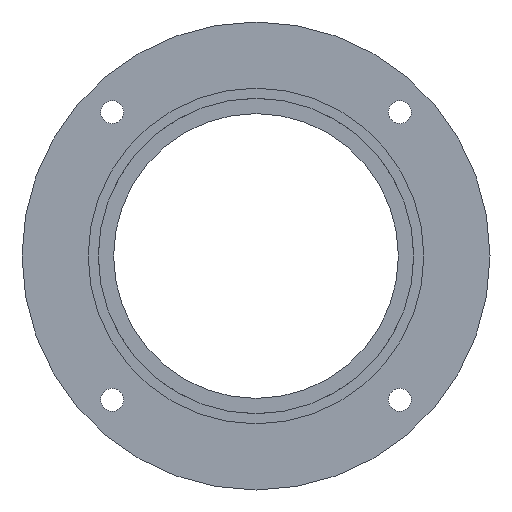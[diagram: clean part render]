
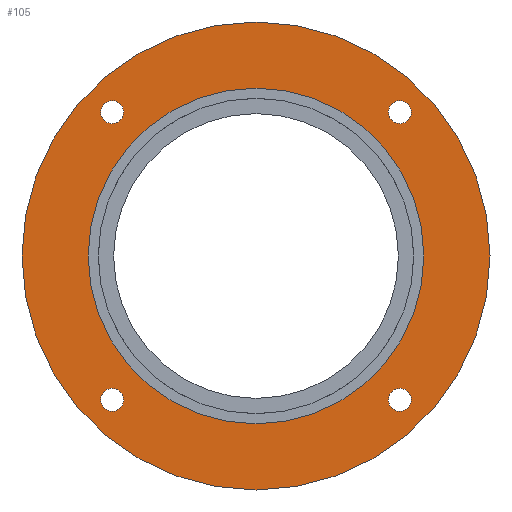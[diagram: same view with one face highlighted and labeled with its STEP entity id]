
A CAD part, front view. The second image highlights one B-rep face of the part: STEP entity #105.
In plain terms, the highlighted planar face has unit normal (0, -1, 0).
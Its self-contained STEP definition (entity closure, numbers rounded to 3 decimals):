
#21 = EDGE_CURVE('',#22,#22,#24,.T.);
#22 = VERTEX_POINT('',#23);
#23 = CARTESIAN_POINT('',(0.,35.,32.99));
#24 = SURFACE_CURVE('',#25,(#30,#42),.PCURVE_S1.);
#25 = CIRCLE('',#26,32.99);
#26 = AXIS2_PLACEMENT_3D('',#27,#28,#29);
#27 = CARTESIAN_POINT('',(0.,35.,0.));
#28 = DIRECTION('',(0.,1.,0.));
#29 = DIRECTION('',(0.,-0.,1.));
#30 = PCURVE('',#31,#36);
#31 = CYLINDRICAL_SURFACE('',#32,32.99);
#32 = AXIS2_PLACEMENT_3D('',#33,#34,#35);
#33 = CARTESIAN_POINT('',(0.,24.,0.));
#34 = DIRECTION('',(0.,1.,0.));
#35 = DIRECTION('',(0.,-0.,1.));
#36 = DEFINITIONAL_REPRESENTATION('',(#37),#41);
#37 = LINE('',#38,#39);
#38 = CARTESIAN_POINT('',(0.,11.));
#39 = VECTOR('',#40,1.);
#40 = DIRECTION('',(1.,0.));
#41 = ( GEOMETRIC_REPRESENTATION_CONTEXT(2) 
PARAMETRIC_REPRESENTATION_CONTEXT() REPRESENTATION_CONTEXT('2D SPACE',''
  ) );
#42 = PCURVE('',#43,#48);
#43 = PLANE('',#44);
#44 = AXIS2_PLACEMENT_3D('',#45,#46,#47);
#45 = CARTESIAN_POINT('',(0.,35.,0.));
#46 = DIRECTION('',(0.,1.,0.));
#47 = DIRECTION('',(0.,-0.,1.));
#48 = DEFINITIONAL_REPRESENTATION('',(#49),#53);
#49 = CIRCLE('',#50,32.99);
#50 = AXIS2_PLACEMENT_2D('',#51,#52);
#51 = CARTESIAN_POINT('',(0.,0.));
#52 = DIRECTION('',(1.,0.));
#53 = ( GEOMETRIC_REPRESENTATION_CONTEXT(2) 
PARAMETRIC_REPRESENTATION_CONTEXT() REPRESENTATION_CONTEXT('2D SPACE',''
  ) );
#105 = ADVANCED_FACE('',(#106,#137,#172,#207,#242,#245),#43,.F.);
#106 = FACE_BOUND('',#107,.F.);
#107 = EDGE_LOOP('',(#108));
#108 = ORIENTED_EDGE('',*,*,#109,.T.);
#109 = EDGE_CURVE('',#110,#110,#112,.T.);
#110 = VERTEX_POINT('',#111);
#111 = CARTESIAN_POINT('',(0.,35.,46.));
#112 = SURFACE_CURVE('',#113,(#118,#125),.PCURVE_S1.);
#113 = CIRCLE('',#114,46.);
#114 = AXIS2_PLACEMENT_3D('',#115,#116,#117);
#115 = CARTESIAN_POINT('',(0.,35.,0.));
#116 = DIRECTION('',(0.,1.,0.));
#117 = DIRECTION('',(0.,-0.,1.));
#118 = PCURVE('',#43,#119);
#119 = DEFINITIONAL_REPRESENTATION('',(#120),#124);
#120 = CIRCLE('',#121,46.);
#121 = AXIS2_PLACEMENT_2D('',#122,#123);
#122 = CARTESIAN_POINT('',(0.,0.));
#123 = DIRECTION('',(1.,0.));
#124 = ( GEOMETRIC_REPRESENTATION_CONTEXT(2) 
PARAMETRIC_REPRESENTATION_CONTEXT() REPRESENTATION_CONTEXT('2D SPACE',''
  ) );
#125 = PCURVE('',#126,#131);
#126 = CYLINDRICAL_SURFACE('',#127,46.);
#127 = AXIS2_PLACEMENT_3D('',#128,#129,#130);
#128 = CARTESIAN_POINT('',(0.,35.,0.));
#129 = DIRECTION('',(0.,1.,0.));
#130 = DIRECTION('',(0.,-0.,1.));
#131 = DEFINITIONAL_REPRESENTATION('',(#132),#136);
#132 = LINE('',#133,#134);
#133 = CARTESIAN_POINT('',(0.,0.));
#134 = VECTOR('',#135,1.);
#135 = DIRECTION('',(1.,0.));
#136 = ( GEOMETRIC_REPRESENTATION_CONTEXT(2) 
PARAMETRIC_REPRESENTATION_CONTEXT() REPRESENTATION_CONTEXT('2D SPACE',''
  ) );
#137 = FACE_BOUND('',#138,.F.);
#138 = EDGE_LOOP('',(#139));
#139 = ORIENTED_EDGE('',*,*,#140,.T.);
#140 = EDGE_CURVE('',#141,#141,#143,.T.);
#141 = VERTEX_POINT('',#142);
#142 = CARTESIAN_POINT('',(-28.284,35.,-30.534));
#143 = SURFACE_CURVE('',#144,(#149,#160),.PCURVE_S1.);
#144 = CIRCLE('',#145,2.25);
#145 = AXIS2_PLACEMENT_3D('',#146,#147,#148);
#146 = CARTESIAN_POINT('',(-28.284,35.,-28.284));
#147 = DIRECTION('',(0.,-1.,0.));
#148 = DIRECTION('',(0.,-0.,-1.));
#149 = PCURVE('',#43,#150);
#150 = DEFINITIONAL_REPRESENTATION('',(#151),#159);
#151 = ( BOUNDED_CURVE() B_SPLINE_CURVE(2,(#152,#153,#154,#155,#156,#157
,#158),.UNSPECIFIED.,.T.,.F.) B_SPLINE_CURVE_WITH_KNOTS((1,2,2,2,2,1),(
    -2.094,0.,2.094,4.189,6.283,
8.378),.UNSPECIFIED.) CURVE() GEOMETRIC_REPRESENTATION_ITEM() 
RATIONAL_B_SPLINE_CURVE((1.,0.5,1.,0.5,1.,0.5,1.)) REPRESENTATION_ITEM(
  '') );
#152 = CARTESIAN_POINT('',(-30.534,-28.284));
#153 = CARTESIAN_POINT('',(-30.534,-24.387));
#154 = CARTESIAN_POINT('',(-27.159,-26.336));
#155 = CARTESIAN_POINT('',(-23.784,-28.284));
#156 = CARTESIAN_POINT('',(-27.159,-30.233));
#157 = CARTESIAN_POINT('',(-30.534,-32.181));
#158 = CARTESIAN_POINT('',(-30.534,-28.284));
#159 = ( GEOMETRIC_REPRESENTATION_CONTEXT(2) 
PARAMETRIC_REPRESENTATION_CONTEXT() REPRESENTATION_CONTEXT('2D SPACE',''
  ) );
#160 = PCURVE('',#161,#166);
#161 = CYLINDRICAL_SURFACE('',#162,2.25);
#162 = AXIS2_PLACEMENT_3D('',#163,#164,#165);
#163 = CARTESIAN_POINT('',(-28.284,40.5,-28.284));
#164 = DIRECTION('',(0.,-1.,0.));
#165 = DIRECTION('',(0.,-0.,-1.));
#166 = DEFINITIONAL_REPRESENTATION('',(#167),#171);
#167 = LINE('',#168,#169);
#168 = CARTESIAN_POINT('',(0.,5.5));
#169 = VECTOR('',#170,1.);
#170 = DIRECTION('',(1.,0.));
#171 = ( GEOMETRIC_REPRESENTATION_CONTEXT(2) 
PARAMETRIC_REPRESENTATION_CONTEXT() REPRESENTATION_CONTEXT('2D SPACE',''
  ) );
#172 = FACE_BOUND('',#173,.F.);
#173 = EDGE_LOOP('',(#174));
#174 = ORIENTED_EDGE('',*,*,#175,.T.);
#175 = EDGE_CURVE('',#176,#176,#178,.T.);
#176 = VERTEX_POINT('',#177);
#177 = CARTESIAN_POINT('',(-28.284,35.,26.034));
#178 = SURFACE_CURVE('',#179,(#184,#195),.PCURVE_S1.);
#179 = CIRCLE('',#180,2.25);
#180 = AXIS2_PLACEMENT_3D('',#181,#182,#183);
#181 = CARTESIAN_POINT('',(-28.284,35.,28.284));
#182 = DIRECTION('',(0.,-1.,0.));
#183 = DIRECTION('',(0.,-0.,-1.));
#184 = PCURVE('',#43,#185);
#185 = DEFINITIONAL_REPRESENTATION('',(#186),#194);
#186 = ( BOUNDED_CURVE() B_SPLINE_CURVE(2,(#187,#188,#189,#190,#191,#192
,#193),.UNSPECIFIED.,.T.,.F.) B_SPLINE_CURVE_WITH_KNOTS((1,2,2,2,2,1),(
    -2.094,0.,2.094,4.189,6.283,
8.378),.UNSPECIFIED.) CURVE() GEOMETRIC_REPRESENTATION_ITEM() 
RATIONAL_B_SPLINE_CURVE((1.,0.5,1.,0.5,1.,0.5,1.)) REPRESENTATION_ITEM(
  '') );
#187 = CARTESIAN_POINT('',(26.034,-28.284));
#188 = CARTESIAN_POINT('',(26.034,-24.387));
#189 = CARTESIAN_POINT('',(29.409,-26.336));
#190 = CARTESIAN_POINT('',(32.784,-28.284));
#191 = CARTESIAN_POINT('',(29.409,-30.233));
#192 = CARTESIAN_POINT('',(26.034,-32.181));
#193 = CARTESIAN_POINT('',(26.034,-28.284));
#194 = ( GEOMETRIC_REPRESENTATION_CONTEXT(2) 
PARAMETRIC_REPRESENTATION_CONTEXT() REPRESENTATION_CONTEXT('2D SPACE',''
  ) );
#195 = PCURVE('',#196,#201);
#196 = CYLINDRICAL_SURFACE('',#197,2.25);
#197 = AXIS2_PLACEMENT_3D('',#198,#199,#200);
#198 = CARTESIAN_POINT('',(-28.284,40.5,28.284));
#199 = DIRECTION('',(0.,-1.,0.));
#200 = DIRECTION('',(0.,-0.,-1.));
#201 = DEFINITIONAL_REPRESENTATION('',(#202),#206);
#202 = LINE('',#203,#204);
#203 = CARTESIAN_POINT('',(0.,5.5));
#204 = VECTOR('',#205,1.);
#205 = DIRECTION('',(1.,0.));
#206 = ( GEOMETRIC_REPRESENTATION_CONTEXT(2) 
PARAMETRIC_REPRESENTATION_CONTEXT() REPRESENTATION_CONTEXT('2D SPACE',''
  ) );
#207 = FACE_BOUND('',#208,.F.);
#208 = EDGE_LOOP('',(#209));
#209 = ORIENTED_EDGE('',*,*,#210,.T.);
#210 = EDGE_CURVE('',#211,#211,#213,.T.);
#211 = VERTEX_POINT('',#212);
#212 = CARTESIAN_POINT('',(28.284,35.,-30.534));
#213 = SURFACE_CURVE('',#214,(#219,#230),.PCURVE_S1.);
#214 = CIRCLE('',#215,2.25);
#215 = AXIS2_PLACEMENT_3D('',#216,#217,#218);
#216 = CARTESIAN_POINT('',(28.284,35.,-28.284));
#217 = DIRECTION('',(0.,-1.,0.));
#218 = DIRECTION('',(0.,-0.,-1.));
#219 = PCURVE('',#43,#220);
#220 = DEFINITIONAL_REPRESENTATION('',(#221),#229);
#221 = ( BOUNDED_CURVE() B_SPLINE_CURVE(2,(#222,#223,#224,#225,#226,#227
,#228),.UNSPECIFIED.,.T.,.F.) B_SPLINE_CURVE_WITH_KNOTS((1,2,2,2,2,1),(
    -2.094,0.,2.094,4.189,6.283,
8.378),.UNSPECIFIED.) CURVE() GEOMETRIC_REPRESENTATION_ITEM() 
RATIONAL_B_SPLINE_CURVE((1.,0.5,1.,0.5,1.,0.5,1.)) REPRESENTATION_ITEM(
  '') );
#222 = CARTESIAN_POINT('',(-30.534,28.284));
#223 = CARTESIAN_POINT('',(-30.534,32.181));
#224 = CARTESIAN_POINT('',(-27.159,30.233));
#225 = CARTESIAN_POINT('',(-23.784,28.284));
#226 = CARTESIAN_POINT('',(-27.159,26.336));
#227 = CARTESIAN_POINT('',(-30.534,24.387));
#228 = CARTESIAN_POINT('',(-30.534,28.284));
#229 = ( GEOMETRIC_REPRESENTATION_CONTEXT(2) 
PARAMETRIC_REPRESENTATION_CONTEXT() REPRESENTATION_CONTEXT('2D SPACE',''
  ) );
#230 = PCURVE('',#231,#236);
#231 = CYLINDRICAL_SURFACE('',#232,2.25);
#232 = AXIS2_PLACEMENT_3D('',#233,#234,#235);
#233 = CARTESIAN_POINT('',(28.284,40.5,-28.284));
#234 = DIRECTION('',(0.,-1.,0.));
#235 = DIRECTION('',(0.,-0.,-1.));
#236 = DEFINITIONAL_REPRESENTATION('',(#237),#241);
#237 = LINE('',#238,#239);
#238 = CARTESIAN_POINT('',(0.,5.5));
#239 = VECTOR('',#240,1.);
#240 = DIRECTION('',(1.,0.));
#241 = ( GEOMETRIC_REPRESENTATION_CONTEXT(2) 
PARAMETRIC_REPRESENTATION_CONTEXT() REPRESENTATION_CONTEXT('2D SPACE',''
  ) );
#242 = FACE_BOUND('',#243,.F.);
#243 = EDGE_LOOP('',(#244));
#244 = ORIENTED_EDGE('',*,*,#21,.F.);
#245 = FACE_BOUND('',#246,.F.);
#246 = EDGE_LOOP('',(#247));
#247 = ORIENTED_EDGE('',*,*,#248,.T.);
#248 = EDGE_CURVE('',#249,#249,#251,.T.);
#249 = VERTEX_POINT('',#250);
#250 = CARTESIAN_POINT('',(28.284,35.,26.034));
#251 = SURFACE_CURVE('',#252,(#257,#268),.PCURVE_S1.);
#252 = CIRCLE('',#253,2.25);
#253 = AXIS2_PLACEMENT_3D('',#254,#255,#256);
#254 = CARTESIAN_POINT('',(28.284,35.,28.284));
#255 = DIRECTION('',(0.,-1.,0.));
#256 = DIRECTION('',(0.,-0.,-1.));
#257 = PCURVE('',#43,#258);
#258 = DEFINITIONAL_REPRESENTATION('',(#259),#267);
#259 = ( BOUNDED_CURVE() B_SPLINE_CURVE(2,(#260,#261,#262,#263,#264,#265
,#266),.UNSPECIFIED.,.T.,.F.) B_SPLINE_CURVE_WITH_KNOTS((1,2,2,2,2,1),(
    -2.094,0.,2.094,4.189,6.283,
8.378),.UNSPECIFIED.) CURVE() GEOMETRIC_REPRESENTATION_ITEM() 
RATIONAL_B_SPLINE_CURVE((1.,0.5,1.,0.5,1.,0.5,1.)) REPRESENTATION_ITEM(
  '') );
#260 = CARTESIAN_POINT('',(26.034,28.284));
#261 = CARTESIAN_POINT('',(26.034,32.181));
#262 = CARTESIAN_POINT('',(29.409,30.233));
#263 = CARTESIAN_POINT('',(32.784,28.284));
#264 = CARTESIAN_POINT('',(29.409,26.336));
#265 = CARTESIAN_POINT('',(26.034,24.387));
#266 = CARTESIAN_POINT('',(26.034,28.284));
#267 = ( GEOMETRIC_REPRESENTATION_CONTEXT(2) 
PARAMETRIC_REPRESENTATION_CONTEXT() REPRESENTATION_CONTEXT('2D SPACE',''
  ) );
#268 = PCURVE('',#269,#274);
#269 = CYLINDRICAL_SURFACE('',#270,2.25);
#270 = AXIS2_PLACEMENT_3D('',#271,#272,#273);
#271 = CARTESIAN_POINT('',(28.284,40.5,28.284));
#272 = DIRECTION('',(0.,-1.,0.));
#273 = DIRECTION('',(0.,-0.,-1.));
#274 = DEFINITIONAL_REPRESENTATION('',(#275),#279);
#275 = LINE('',#276,#277);
#276 = CARTESIAN_POINT('',(0.,5.5));
#277 = VECTOR('',#278,1.);
#278 = DIRECTION('',(1.,0.));
#279 = ( GEOMETRIC_REPRESENTATION_CONTEXT(2) 
PARAMETRIC_REPRESENTATION_CONTEXT() REPRESENTATION_CONTEXT('2D SPACE',''
  ) );
